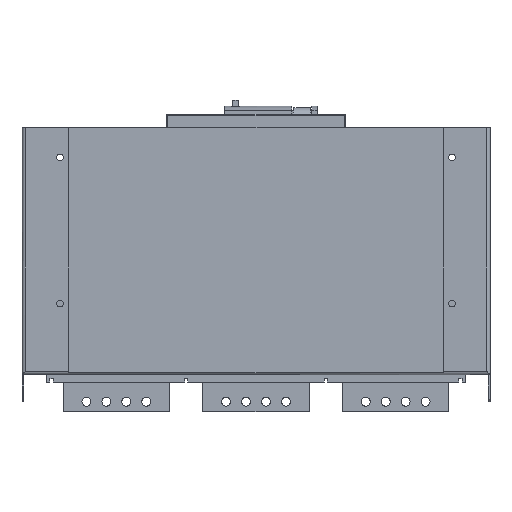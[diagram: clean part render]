
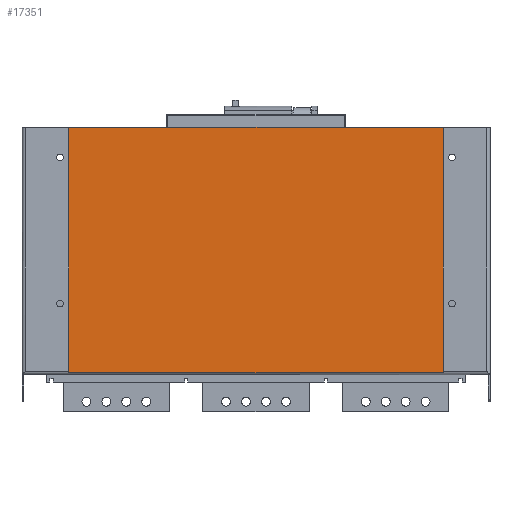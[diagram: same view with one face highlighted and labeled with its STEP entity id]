
A CAD part, front view. The second image highlights one B-rep face of the part: STEP entity #17351.
In plain terms, the highlighted planar face has unit normal (0, -1, 0).
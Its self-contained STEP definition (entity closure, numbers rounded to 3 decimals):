
#17207 = VERTEX_POINT ( 'NONE', #133021 ) ;
#17222 = EDGE_LOOP ( 'NONE', ( #96657, #96659, #96661, #96663 ) ) ;
#17239 = EDGE_CURVE ( 'NONE', #17207, #24843, #133228, .T. ) ;
#17276 = VERTEX_POINT ( 'NONE', #133320 ) ;
#17326 = EDGE_CURVE ( 'NONE', #17276, #17207, #133513, .T. ) ;
#17346 = EDGE_CURVE ( 'NONE', #25363, #17276, #133618, .T. ) ;
#17351 = ADVANCED_FACE ( 'NONE', ( #133611 ), #133689, .F. ) ;
#24843 = VERTEX_POINT ( 'NONE', #142251 ) ;
#25363 = VERTEX_POINT ( 'NONE', #142363 ) ;
#25410 = EDGE_CURVE ( 'NONE', #24843, #25363, #142486, .T. ) ;
#96657 = ORIENTED_EDGE ( 'NONE', *, *, #17239, .F. ) ;
#96659 = ORIENTED_EDGE ( 'NONE', *, *, #17326, .F. ) ;
#96661 = ORIENTED_EDGE ( 'NONE', *, *, #17346, .F. ) ;
#96663 = ORIENTED_EDGE ( 'NONE', *, *, #25410, .F. ) ;
#133021 = CARTESIAN_POINT ( 'NONE',  ( -282., -227., 3. ) ) ;
#133222 = DIRECTION ( 'NONE',  ( 0., 0., 1. ) ) ;
#133224 = VECTOR ( 'NONE', #133222, 1000. ) ;
#133227 = CARTESIAN_POINT ( 'NONE',  ( -282., -227., 3. ) ) ;
#133228 = LINE ( 'NONE', #133227, #133224 ) ;
#133320 = CARTESIAN_POINT ( 'NONE',  ( 282., -227., 3. ) ) ;
#133510 = DIRECTION ( 'NONE',  ( -1., 0., 0. ) ) ;
#133511 = VECTOR ( 'NONE', #133510, 1000. ) ;
#133512 = CARTESIAN_POINT ( 'NONE',  ( -282., -227., 3. ) ) ;
#133513 = LINE ( 'NONE', #133512, #133511 ) ;
#133611 = FACE_OUTER_BOUND ( 'NONE', #17222, .T. ) ;
#133614 = DIRECTION ( 'NONE',  ( 0., 0., -1. ) ) ;
#133615 = VECTOR ( 'NONE', #133614, 1000. ) ;
#133616 = CARTESIAN_POINT ( 'NONE',  ( 282., -227., 3. ) ) ;
#133618 = LINE ( 'NONE', #133616, #133615 ) ;
#133683 = DIRECTION ( 'NONE',  ( -1., 0., 0. ) ) ;
#133685 = DIRECTION ( 'NONE',  ( 0., 1., 0. ) ) ;
#133686 = CARTESIAN_POINT ( 'NONE',  ( -282., -227., 372. ) ) ;
#133687 = AXIS2_PLACEMENT_3D ( 'NONE', #133686, #133685, #133683 ) ;
#133689 = PLANE ( 'NONE',  #133687 ) ;
#142251 = CARTESIAN_POINT ( 'NONE',  ( -282., -227., 372. ) ) ;
#142363 = CARTESIAN_POINT ( 'NONE',  ( 282., -227., 372. ) ) ;
#142483 = DIRECTION ( 'NONE',  ( 1., 0., 0. ) ) ;
#142484 = VECTOR ( 'NONE', #142483, 1000. ) ;
#142485 = CARTESIAN_POINT ( 'NONE',  ( -282., -227., 372. ) ) ;
#142486 = LINE ( 'NONE', #142485, #142484 ) ;
